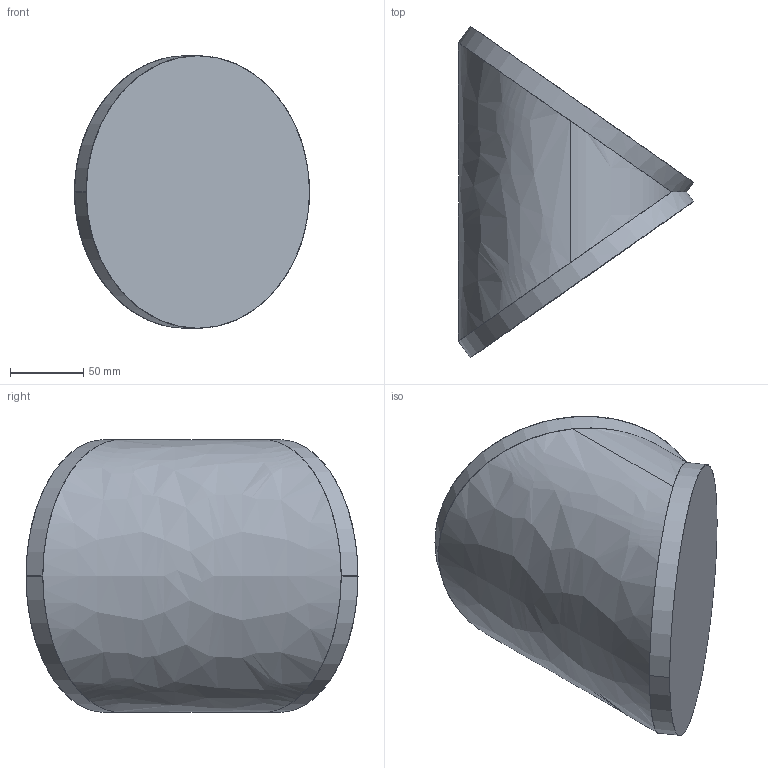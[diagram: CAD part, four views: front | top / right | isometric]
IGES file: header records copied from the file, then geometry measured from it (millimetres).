
Start section: SolidWorks IGES FILE using analytic representation for surfaces
Global section: file name: L:\Projekt\ABB Robotics\P685 PaintRobots2006 CAD-Models\CAD-Underlag IRB5500 TEMPO\SW2004\060711\Left\EngineSaveZip\iges\joints_links\IRB5500_12_T00F71B41V31H51_rev1_6.igs; native system: SolidWorks 2004 by SolidWorks Corporation; preprocessor: Version 5.3; author: joer; date: 060901.140509; units: millimetre
Bounding box: 160.39 x 226.56 x 186 mm (x, y, z)
Surface area: 122235.7 mm2 (no closed solid volume)
Topology: 0 solids, 0 shells, 9 faces, 316 edges, 316 vertices
Faces by surface type: bspline 5, revolution 4
